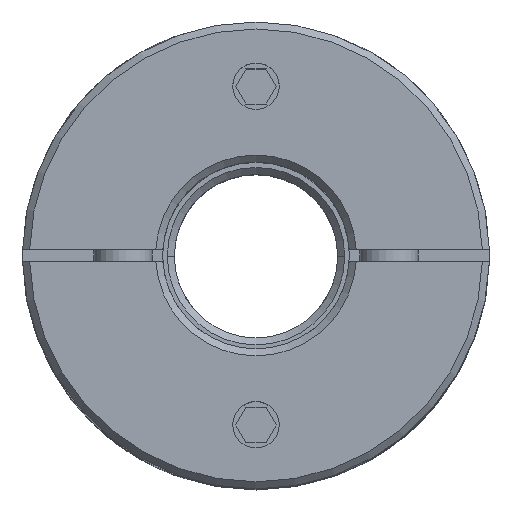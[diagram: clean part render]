
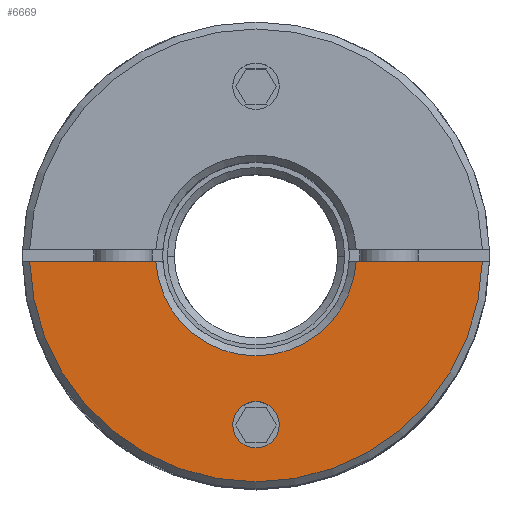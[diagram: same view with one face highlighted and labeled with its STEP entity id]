
A CAD part, top view. The second image highlights one B-rep face of the part: STEP entity #6669.
In plain terms, the highlighted planar face has unit normal (0, 0, 1).
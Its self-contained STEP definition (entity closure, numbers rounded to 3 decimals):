
#1633=CARTESIAN_POINT('',(-1.,-7.25,14.0));
#1634=VERTEX_POINT('',#1633);
#1643=CARTESIAN_POINT('',(1.,-7.25,14.0));
#1644=VERTEX_POINT('',#1643);
#1645=CARTESIAN_POINT('',(0.,-7.25,14.0));
#1646=DIRECTION('',(0.0,0.0,-1.0));
#1647=DIRECTION('',(-1.0,0.0,0.0));
#1648=AXIS2_PLACEMENT_3D('',#1645,#1646,#1647);
#1649=CIRCLE('',#1648,1.0);
#1650=EDGE_CURVE('',#1644,#1634,#1649,.T.);
#5875=CARTESIAN_POINT('',(-4.293,-0.25,14.0));
#5876=VERTEX_POINT('',#5875);
#5890=CARTESIAN_POINT('',(4.293,-0.25,14.0));
#5891=VERTEX_POINT('',#5890);
#5892=CARTESIAN_POINT('',(0.,0.,14.0));
#5893=DIRECTION('',(0.0,0.0,1.0));
#5894=DIRECTION('',(-1.0,0.0,0.0));
#5895=AXIS2_PLACEMENT_3D('',#5892,#5893,#5894);
#5896=CIRCLE('',#5895,4.3);
#5897=EDGE_CURVE('',#5876,#5891,#5896,.T.);
#5930=CARTESIAN_POINT('',(-9.697,-0.25,14.0));
#5931=VERTEX_POINT('',#5930);
#5945=CARTESIAN_POINT('',(-4.293,-0.25,14.0));
#5946=DIRECTION('',(-1.0,0.0,0.0));
#5947=VECTOR('',#5946,5.404);
#5948=LINE('',#5945,#5947);
#5949=EDGE_CURVE('',#5876,#5931,#5948,.T.);
#6074=CARTESIAN_POINT('',(9.697,-0.25,14.0));
#6075=VERTEX_POINT('',#6074);
#6089=CARTESIAN_POINT('',(0.,0.,14.0));
#6090=DIRECTION('',(0.0,0.0,-1.0));
#6091=DIRECTION('',(-1.0,0.0,0.0));
#6092=AXIS2_PLACEMENT_3D('',#6089,#6090,#6091);
#6093=CIRCLE('',#6092,9.7);
#6094=EDGE_CURVE('',#6075,#5931,#6093,.T.);
#6105=CARTESIAN_POINT('',(9.697,-0.25,14.0));
#6106=DIRECTION('',(-1.0,0.0,0.0));
#6107=VECTOR('',#6106,5.404);
#6108=LINE('',#6105,#6107);
#6109=EDGE_CURVE('',#6075,#5891,#6108,.T.);
#6648=CARTESIAN_POINT('',(-0.909,0.,14.0));
#6649=DIRECTION('',(0.0,0.0,1.0));
#6650=DIRECTION('',(-1.0,0.0,0.0));
#6651=AXIS2_PLACEMENT_3D('',#6648,#6649,#6650);
#6652=PLANE('',#6651);
#6653=ORIENTED_EDGE('',*,*,#5897,.F.);
#6654=ORIENTED_EDGE('',*,*,#5949,.T.);
#6655=ORIENTED_EDGE('',*,*,#6094,.F.);
#6656=ORIENTED_EDGE('',*,*,#6109,.T.);
#6657=EDGE_LOOP('',(#6653,#6654,#6655,#6656));
#6658=FACE_OUTER_BOUND('',#6657,.T.);
#6659=CARTESIAN_POINT('',(0.,-7.25,14.0));
#6660=DIRECTION('',(0.0,0.0,-1.0));
#6661=DIRECTION('',(-1.0,0.0,0.0));
#6662=AXIS2_PLACEMENT_3D('',#6659,#6660,#6661);
#6663=CIRCLE('',#6662,1.0);
#6664=EDGE_CURVE('',#1634,#1644,#6663,.T.);
#6665=ORIENTED_EDGE('',*,*,#6664,.T.);
#6666=ORIENTED_EDGE('',*,*,#1650,.T.);
#6667=EDGE_LOOP('',(#6665,#6666));
#6668=FACE_BOUND('',#6667,.T.);
#6669=ADVANCED_FACE('',(#6658,#6668),#6652,.T.);
